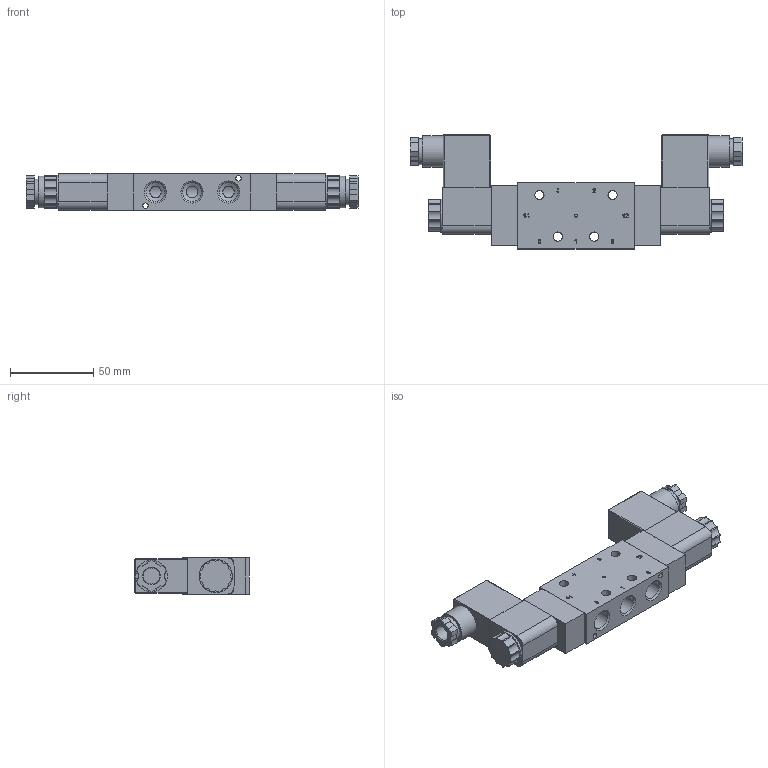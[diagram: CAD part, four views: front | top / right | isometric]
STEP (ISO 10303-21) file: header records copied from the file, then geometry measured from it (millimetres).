
FILE_DESCRIPTION(/* description */ ('Unknown','CAx-IF Rec.Pracs.---Representation and Presentation of Product Manufacturing Information (PMI)---4.0---2014-10-13','CAx-IF Rec.Pracs.---3D Tessellated Geometry---0.4---2014-09-14','2;1'),/* implementation_level */ '2;1');
FILE_NAME(/* name */ 'MH 520 701 G + MA 22 24 DC + ST 22 M',/* time_stamp */ '2019-06-20T09:50:04+02:00',/* author */ ('Unknown'),/* organization */ ('Unknown'),/* preprocessor_version */ 'ST-DEVELOPER v16.7',/* originating_system */ 'DEX',/* authorisation */ $);
FILE_SCHEMA (('AP242_MANAGED_MODEL_BASED_3D_ENGINEERING_MIM_LF { 1 0 10303 442 20130219 1 4 }'));
Length unit declared in the file: millimetre
Products named in the file (2): MH 520 701 G + MA 22 24 DC + ST 22 M
Assembly tree (1 placements, depth 2):
  MH 520 701 G + MA 22 24 DC + ST 22 M
    MH 520 701 G + MA 22 24 DC + ST 22 M
Bounding box: 200 x 68.7 x 22 mm (x, y, z)
Volume: 154626.4 mm3; surface area: 51856.4 mm2
Topology: 9 solids, 9 shells, 834 faces, 2147 edges, 1413 vertices
Faces by surface type: plane 552, cylinder 158, bspline 80, cone 32, sphere 10, torus 2
Full cylindrical faces by diameter (mm): 1.5 x6, 1.6 x2, 1.85 x2, 2.459 x20, 3.236 x2, 3.3 x2, 5.5 x4, 5.6 x8, 6 x2, 6.1 x2, 7 x5, 7.3 x2, 8 x2, 8.15 x2, 8.5 x2, 9 x2, 9.15 x2, 9.75 x2, 11 x2, 11.445 x10, 11.6 x2, 12 x1, 15.6 x2, 16 x2, 19 x2, 20 x2
Entity records: 31275 total; most frequent: CARTESIAN_POINT 6314, ORIENTED_EDGE 3844, DIRECTION 3607, EDGE_CURVE 1922, LINE 1381, VECTOR 1381, VERTEX_POINT 1346, FACE_BOUND 1130
